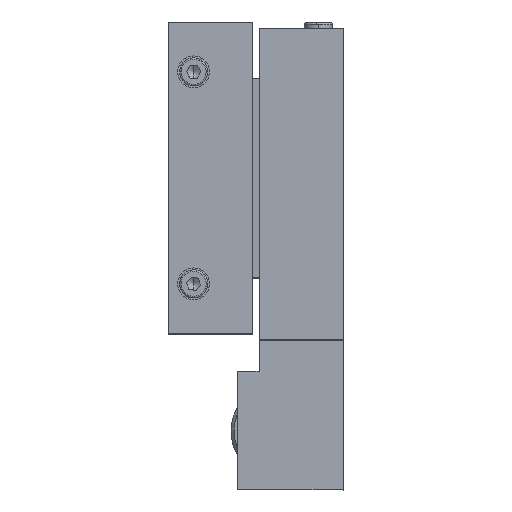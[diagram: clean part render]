
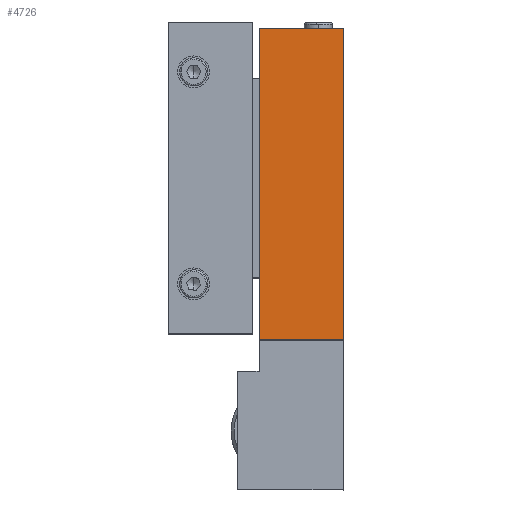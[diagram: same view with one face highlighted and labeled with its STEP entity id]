
A CAD part, top view. The second image highlights one B-rep face of the part: STEP entity #4726.
In plain terms, the highlighted planar face has unit normal (0, 0, 1).
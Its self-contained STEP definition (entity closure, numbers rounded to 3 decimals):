
#4066 = VERTEX_POINT ( 'NONE', #18570 ) ;
#4081 = VERTEX_POINT ( 'NONE', #18604 ) ;
#4125 = EDGE_CURVE ( 'NONE', #4081, #4066, #18660, .T. ) ;
#4722 = EDGE_CURVE ( 'NONE', #4723, #4081, #19510, .T. ) ;
#4723 = VERTEX_POINT ( 'NONE', #19506 ) ;
#4726 = ADVANCED_FACE ( 'NONE', ( #19501 ), #19500, .T. ) ;
#4728 = EDGE_LOOP ( 'NONE', ( #4732, #4734, #4738, #4741 ) ) ;
#4732 = ORIENTED_EDGE ( 'NONE', *, *, #4125, .T. ) ;
#4734 = ORIENTED_EDGE ( 'NONE', *, *, #4735, .F. ) ;
#4735 = EDGE_CURVE ( 'NONE', #4736, #4066, #19489, .T. ) ;
#4736 = VERTEX_POINT ( 'NONE', #19485 ) ;
#4738 = ORIENTED_EDGE ( 'NONE', *, *, #4740, .F. ) ;
#4740 = EDGE_CURVE ( 'NONE', #4723, #4736, #19543, .T. ) ;
#4741 = ORIENTED_EDGE ( 'NONE', *, *, #4722, .T. ) ;
#18570 = CARTESIAN_POINT ( 'NONE',  ( 34.157, -88.231, -38.998 ) ) ;
#18604 = CARTESIAN_POINT ( 'NONE',  ( 34.157, -38.231, -38.998 ) ) ;
#18657 = DIRECTION ( 'NONE',  ( 0., -1., 0. ) ) ;
#18658 = VECTOR ( 'NONE', #18657, 1000. ) ;
#18659 = CARTESIAN_POINT ( 'NONE',  ( 34.157, -84.231, -38.998 ) ) ;
#18660 = LINE ( 'NONE', #18659, #18658 ) ;
#19485 = CARTESIAN_POINT ( 'NONE',  ( 47.657, -88.231, -38.998 ) ) ;
#19486 = DIRECTION ( 'NONE',  ( -1., 0., 0. ) ) ;
#19487 = VECTOR ( 'NONE', #19486, 1000. ) ;
#19488 = CARTESIAN_POINT ( 'NONE',  ( 41.465, -88.231, -38.998 ) ) ;
#19489 = LINE ( 'NONE', #19488, #19487 ) ;
#19496 = DIRECTION ( 'NONE',  ( 0., -1., 0. ) ) ;
#19497 = DIRECTION ( 'NONE',  ( 0., 0., 1. ) ) ;
#19498 = CARTESIAN_POINT ( 'NONE',  ( 34.157, -84.231, -38.998 ) ) ;
#19499 = AXIS2_PLACEMENT_3D ( 'NONE', #19498, #19497, #19496 ) ;
#19500 = PLANE ( 'NONE',  #19499 ) ;
#19501 = FACE_OUTER_BOUND ( 'NONE', #4728, .T. ) ;
#19506 = CARTESIAN_POINT ( 'NONE',  ( 47.657, -38.231, -38.998 ) ) ;
#19507 = DIRECTION ( 'NONE',  ( -1., 0., 0. ) ) ;
#19508 = VECTOR ( 'NONE', #19507, 1000. ) ;
#19509 = CARTESIAN_POINT ( 'NONE',  ( 34.157, -38.231, -38.998 ) ) ;
#19510 = LINE ( 'NONE', #19509, #19508 ) ;
#19540 = DIRECTION ( 'NONE',  ( 0., -1., 0. ) ) ;
#19541 = VECTOR ( 'NONE', #19540, 1000. ) ;
#19542 = CARTESIAN_POINT ( 'NONE',  ( 47.657, -112.231, -38.998 ) ) ;
#19543 = LINE ( 'NONE', #19542, #19541 ) ;
